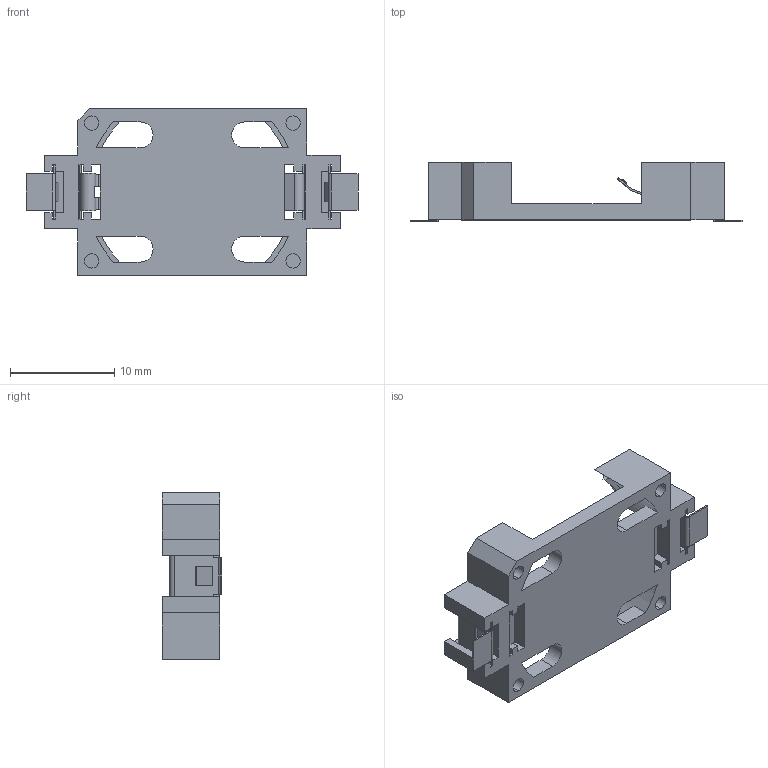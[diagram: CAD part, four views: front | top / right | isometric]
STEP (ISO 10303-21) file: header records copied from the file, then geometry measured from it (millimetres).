
FILE_DESCRIPTION (( 'STEP AP214' ), '1' );
FILE_NAME ('1060_rev.J.STEP', '2013-04-03T14:55:18', ( 'Richard Maletta' ), ( '' ), 'SwSTEP 2.0', 'SolidWorks 2009', '' );
FILE_SCHEMA (( 'AUTOMOTIVE_DESIGN' ));
Length unit declared in the file: millimetre
Products named in the file (1): 1060_rev.J
Bounding box: 31.83 x 5.69 x 16 mm (x, y, z)
Volume: 835.5 mm3; surface area: 1781 mm2
Topology: 3 solids, 3 shells, 352 faces, 924 edges, 584 vertices
Faces by surface type: plane 258, cylinder 54, torus 16, sphere 16, cone 4, bspline 4
Entity records: 14724 total; most frequent: CARTESIAN_POINT 1979, ORIENTED_EDGE 1848, DIRECTION 1820, EDGE_CURVE 924, VECTOR 698, LINE 698, VERTEX_POINT 584, AXIS2_PLACEMENT_3D 561
